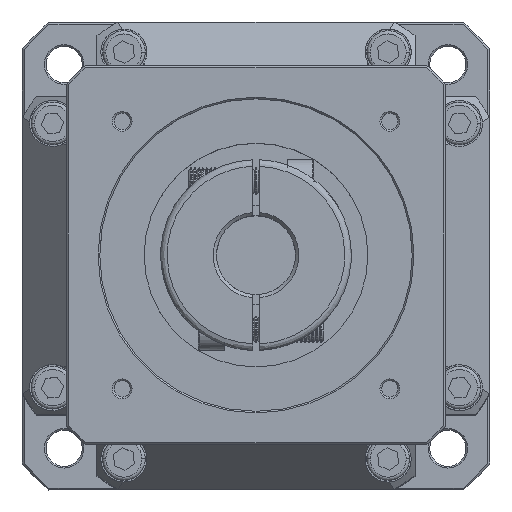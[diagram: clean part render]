
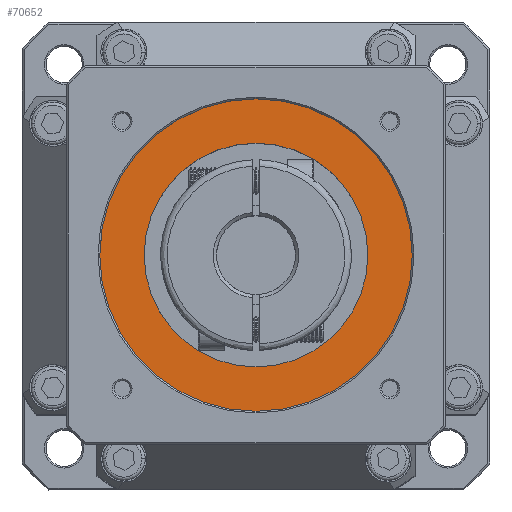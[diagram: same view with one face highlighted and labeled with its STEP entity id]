
A CAD part, top view. The second image highlights one B-rep face of the part: STEP entity #70652.
In plain terms, the highlighted planar face has unit normal (0, 0, -1).
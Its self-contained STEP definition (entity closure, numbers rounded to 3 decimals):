
#2659 = EDGE_CURVE ( 'NONE', #6305, #61809, #21443, .T. ) ;
#5220 = DIRECTION ( 'NONE',  ( 0., 0., -1. ) ) ;
#6305 = VERTEX_POINT ( 'NONE', #38978 ) ;
#11669 = CARTESIAN_POINT ( 'NONE',  ( 0., 0., 237. ) ) ;
#16317 = ORIENTED_EDGE ( 'NONE', *, *, #48564, .T. ) ;
#18915 = DIRECTION ( 'NONE',  ( 0., 1., 0. ) ) ;
#19912 = FACE_BOUND ( 'NONE', #43827, .T. ) ;
#21443 = CIRCLE ( 'NONE', #49506, 47.5 ) ;
#23502 = DIRECTION ( 'NONE',  ( 0., 0., -1. ) ) ;
#28789 = AXIS2_PLACEMENT_3D ( 'NONE', #77635, #34388, #84851 ) ;
#30970 = AXIS2_PLACEMENT_3D ( 'NONE', #48388, #5220, #55652 ) ;
#32712 = CIRCLE ( 'NONE', #78804, 34. ) ;
#34388 = DIRECTION ( 'NONE',  ( 0., 0., 1. ) ) ;
#34870 = CARTESIAN_POINT ( 'NONE',  ( 0., 0., 237. ) ) ;
#38978 = CARTESIAN_POINT ( 'NONE',  ( 0., 47.5, 237. ) ) ;
#42139 = DIRECTION ( 'NONE',  ( 0., 1., 0. ) ) ;
#42852 = CARTESIAN_POINT ( 'NONE',  ( 0., -47.5, 237. ) ) ;
#43827 = EDGE_LOOP ( 'NONE', ( #16317, #68180 ) ) ;
#48388 = CARTESIAN_POINT ( 'NONE',  ( 0., 0., 237. ) ) ;
#48564 = EDGE_CURVE ( 'NONE', #62634, #65802, #92798, .T. ) ;
#48620 = PLANE ( 'NONE',  #28789 ) ;
#49506 = AXIS2_PLACEMENT_3D ( 'NONE', #66711, #23502, #73966 ) ;
#50778 = ORIENTED_EDGE ( 'NONE', *, *, #2659, .T. ) ;
#52607 = EDGE_CURVE ( 'NONE', #61809, #6305, #86280, .T. ) ;
#53497 = EDGE_CURVE ( 'NONE', #65802, #62634, #32712, .T. ) ;
#55652 = DIRECTION ( 'NONE',  ( 0., -1., 0. ) ) ;
#61809 = VERTEX_POINT ( 'NONE', #42852 ) ;
#62124 = DIRECTION ( 'NONE',  ( 0., 0., 1. ) ) ;
#62634 = VERTEX_POINT ( 'NONE', #77675 ) ;
#65802 = VERTEX_POINT ( 'NONE', #73673 ) ;
#66711 = CARTESIAN_POINT ( 'NONE',  ( 0., 0., 237. ) ) ;
#68154 = EDGE_LOOP ( 'NONE', ( #75700, #50778 ) ) ;
#68180 = ORIENTED_EDGE ( 'NONE', *, *, #53497, .T. ) ;
#70652 = ADVANCED_FACE ( 'NONE', ( #19912, #75223 ), #48620, .F. ) ;
#73673 = CARTESIAN_POINT ( 'NONE',  ( 0., -34., 237. ) ) ;
#73966 = DIRECTION ( 'NONE',  ( 0., -1., 0. ) ) ;
#75223 = FACE_OUTER_BOUND ( 'NONE', #68154, .T. ) ;
#75700 = ORIENTED_EDGE ( 'NONE', *, *, #52607, .T. ) ;
#77635 = CARTESIAN_POINT ( 'NONE',  ( -48.07, -48.07, 237. ) ) ;
#77675 = CARTESIAN_POINT ( 'NONE',  ( 0., 34., 237. ) ) ;
#78804 = AXIS2_PLACEMENT_3D ( 'NONE', #34870, #85329, #42139 ) ;
#80310 = AXIS2_PLACEMENT_3D ( 'NONE', #11669, #62124, #18915 ) ;
#84851 = DIRECTION ( 'NONE',  ( 1., 0., 0. ) ) ;
#85329 = DIRECTION ( 'NONE',  ( 0., 0., 1. ) ) ;
#86280 = CIRCLE ( 'NONE', #30970, 47.5 ) ;
#92798 = CIRCLE ( 'NONE', #80310, 34. ) ;
